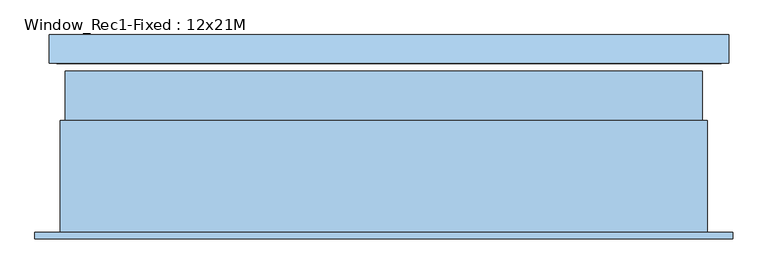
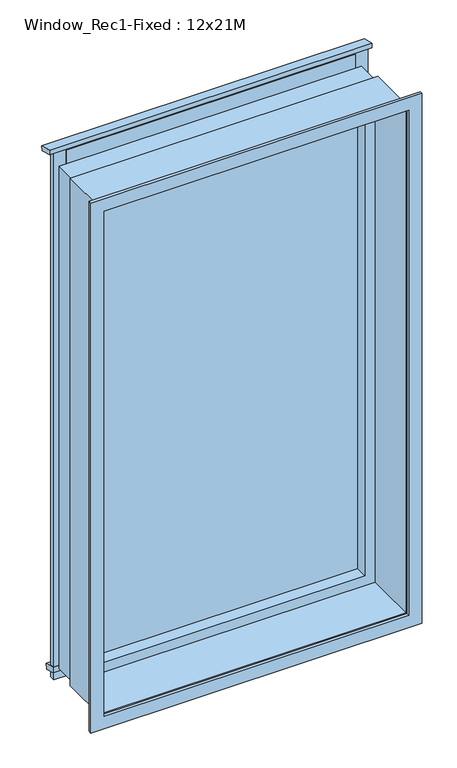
"""IFC4 building model written with IfcOpenShell, lengths in millimetres: window geometry, Window_Rec1-Fixed : 12x21M."""

import ifcopenshell
import ifcopenshell.guid

model = None  # the IFC model being written
_history = None  # IfcOwnerHistory: only IFC2X3 demands one
_inside = {}  # id of a spatial element -> (the spatial element, [elements in it])
_under = {}  # id of a project, library or spatial element -> (it, [spatial elements below it])
_declared = {}  # id of a project -> (the project, [libraries it declares])
_typed = {}  # id of a type object -> (the type object, [elements of that type])
_made_of = {}  # id of a material, layer set ... -> (it, [elements and type objects made of it])


def new_model(schema):
    """Start an empty IFC model of exactly this schema.

    Asked for "IFC4X3", IfcOpenShell would pick the latest addendum, in which some entities
    have other attributes; the version numbers below select the first issue.
    IFC2X3 requires an IfcOwnerHistory on every rooted entity: one is made here for all.
    """
    global model, _history
    if schema == "IFC4X3":
        model = ifcopenshell.file(schema_version=(4, 3, 0, 0))
    else:
        model = ifcopenshell.file(schema=schema)
    _inside.clear()
    _under.clear()
    _declared.clear()
    _typed.clear()
    _made_of.clear()
    _history = None
    if model.schema == "IFC2X3":
        org = make("IfcOrganization", Name="unknown")
        user = make(
            "IfcPersonAndOrganization",
            ThePerson=make("IfcPerson", FamilyName="unknown"),
            TheOrganization=org,
        )
        app = make(
            "IfcApplication",
            ApplicationDeveloper=org,
            Version="unknown",
            ApplicationFullName="unknown",
            ApplicationIdentifier="unknown",
        )
        _history = make(
            "IfcOwnerHistory",
            OwningUser=user,
            OwningApplication=app,
            ChangeAction="ADDED",
            CreationDate=0,
        )
    return model


def make(cls, **values):
    """One entity of the class cls with the attributes given. An attribute that is None is left unset."""
    return model.create_entity(
        cls, **{name: value for name, value in values.items() if value is not None}
    )


def rooted(cls, **values):
    """An entity with a GlobalId (a new one), such as an element, a storey or a relation."""
    return make(cls, GlobalId=ifcopenshell.guid.new(), OwnerHistory=_history, **values)


def si_unit(unit_type, name, prefix=None):
    """IfcSIUnit, for example si_unit("LENGTHUNIT", "METRE", prefix="MILLI")."""
    return make("IfcSIUnit", UnitType=unit_type, Prefix=prefix, Name=name)


def assignment(units):
    """IfcUnitAssignment: the units of a project."""
    return None if units is None else make("IfcUnitAssignment", Units=units)


def point(xyz):
    """IfcCartesianPoint."""
    return None if xyz is None else make("IfcCartesianPoint", Coordinates=xyz)


def direction(xyz):
    """IfcDirection."""
    return None if xyz is None else make("IfcDirection", DirectionRatios=xyz)


def frame(location, z_axis=None, x_axis=None):
    """IfcAxis2Placement3D, a coordinate frame: its origin and axes. An axis left out is left unset."""
    return make(
        "IfcAxis2Placement3D",
        Location=point(location),
        Axis=direction(z_axis),
        RefDirection=direction(x_axis),
    )


def origin():
    """The frame at (0, 0, 0) with its axes left unset."""
    return frame((0.0, 0.0, 0.0))


def place(relative_to, where):
    """IfcLocalPlacement: puts the frame where relative to a parent placement (None: the world)."""
    return make(
        "IfcLocalPlacement", PlacementRelTo=relative_to, RelativePlacement=where
    )


def context(
    kind, dimensions, precision=None, world=None, true_north=None, identifier=None
):
    """IfcGeometricRepresentationContext, for example the 3D "Model" context."""
    return make(
        "IfcGeometricRepresentationContext",
        ContextIdentifier=identifier,
        ContextType=kind,
        CoordinateSpaceDimension=dimensions,
        Precision=precision,
        WorldCoordinateSystem=world,
        TrueNorth=true_north,
    )


def project(units=None, contexts=None):
    """IfcProject with its units and contexts."""
    return rooted(
        "IfcProject",
        Name="project",
        RepresentationContexts=contexts,
        UnitsInContext=assignment(units),
    )


def spatial(cls, under=None, at=None, **own):
    """A site, building, storey or space (cls), placed at a placement, below another one or the project."""
    s = rooted(cls, ObjectPlacement=at, **own)
    if under is not None:
        _under.setdefault(under.id(), (under, []))[1].append(s)
    return s


def polyline(points):
    """IfcPolyline through the points."""
    return make("IfcPolyline", Points=[point(p) for p in points])


def outline(outer, holes=None, kind="AREA"):
    """IfcArbitraryClosedProfileDef: a profile drawn as a closed curve; with holes, ...WithVoids."""
    if holes is None:
        return make("IfcArbitraryClosedProfileDef", ProfileType=kind, OuterCurve=outer)
    return make(
        "IfcArbitraryProfileDefWithVoids",
        ProfileType=kind,
        OuterCurve=outer,
        InnerCurves=holes,
    )


def extrude(swept, where, along, depth):
    """IfcExtrudedAreaSolid: the profile swept, set in the frame where, extruded along a direction by depth."""
    return make(
        "IfcExtrudedAreaSolid",
        SweptArea=swept,
        Position=where,
        ExtrudedDirection=direction(along),
        Depth=depth,
    )


def shape(context_of_items, identifier, shape_type, items):
    """IfcShapeRepresentation: the items that make up one representation, for example the "Body"."""
    return make(
        "IfcShapeRepresentation",
        ContextOfItems=context_of_items,
        RepresentationIdentifier=identifier,
        RepresentationType=shape_type,
        Items=items,
    )


def source(mapping_origin, context_of_items, identifier, shape_type, items):
    """IfcRepresentationMap: a shape defined once, which mapped items show again and again."""
    return make(
        "IfcRepresentationMap",
        MappingOrigin=mapping_origin,
        MappedRepresentation=shape(context_of_items, identifier, shape_type, items),
    )


def transform(
    local_origin,
    x_axis=None,
    y_axis=None,
    z_axis=None,
    scale=None,
    scale2=None,
    scale3=None,
    uniform=True,
):
    """IfcCartesianTransformationOperator3D, or its non-uniform kind. x_axis, y_axis, z_axis: its Axis1, 2, 3."""
    if uniform:
        return make(
            "IfcCartesianTransformationOperator3D",
            Axis1=direction(x_axis),
            Axis2=direction(y_axis),
            LocalOrigin=point(local_origin),
            Scale=scale,
            Axis3=direction(z_axis),
        )
    return make(
        "IfcCartesianTransformationOperator3DnonUniform",
        Axis1=direction(x_axis),
        Axis2=direction(y_axis),
        LocalOrigin=point(local_origin),
        Scale=scale,
        Axis3=direction(z_axis),
        Scale2=scale2,
        Scale3=scale3,
    )


def mapped(mapping_source, mapping_target):
    """IfcMappedItem: shows the shape of a source again, moved by a transform."""
    return make(
        "IfcMappedItem", MappingSource=mapping_source, MappingTarget=mapping_target
    )


def made_of(thing, what):
    """Note that an element or type object is made of a material, layer set ...; save() writes the relation."""
    if what is not None:
        _made_of.setdefault(what.id(), (what, []))[1].append(thing)
    return thing


def element(
    cls,
    number,
    at=None,
    inside=None,
    cuts=None,
    type_object=None,
    material=None,
    context=None,
    identifier="Body",
    shape_type=None,
    held_by="IfcProductDefinitionShape",
    body=None,
    shapes=None,
    **own,
):
    """One element of the class cls, such as IfcWall. Its Tag is "e" and its number.

    at: its placement. inside: the storey or other place that contains it. cuts: it is an
    opening in that element (IfcRelVoidsElement). A single representation is given by context,
    identifier, shape_type and body (its items); several are given by shapes. held_by: the class
    of the entity that holds the representations. save() writes the other relations.
    """
    e = rooted(cls, Tag="e%d" % number, ObjectPlacement=at, **own)
    if body is not None:
        shapes = [shape(context, identifier, shape_type, body)]
    if shapes is not None:
        e.Representation = make(held_by, Representations=shapes)
    if inside is not None:
        _inside.setdefault(inside.id(), (inside, []))[1].append(e)
    if cuts is not None:
        rooted(
            "IfcRelVoidsElement", RelatingBuildingElement=cuts, RelatedOpeningElement=e
        )
    if type_object is not None:
        _typed.setdefault(type_object.id(), (type_object, []))[1].append(e)
    return made_of(e, material)


def aggregate(whole, parts):
    """IfcRelAggregates: a whole, such as a stair, and the parts it consists of."""
    return rooted("IfcRelAggregates", RelatingObject=whole, RelatedObjects=parts)


def save(model, path):
    """Write the relations noted so far, then the file.

    IfcRelAggregates (storeys below a building ...), IfcRelContainedInSpatialStructure (elements
    in a storey), IfcRelDefinesByType, IfcRelAssociatesMaterial and IfcRelDeclares: one each for
    every whole, place, type object, material and project.
    """
    for whole, parts in _under.values():
        aggregate(whole, parts)
    for where, things in _inside.values():
        rooted(
            "IfcRelContainedInSpatialStructure",
            RelatedElements=things,
            RelatingStructure=where,
        )
    for kind, things in _typed.values():
        rooted("IfcRelDefinesByType", RelatedObjects=things, RelatingType=kind)
    for what, things in _made_of.values():
        rooted("IfcRelAssociatesMaterial", RelatedObjects=things, RelatingMaterial=what)
    for by, libraries in _declared.values():
        rooted("IfcRelDeclares", RelatingContext=by, RelatedDefinitions=libraries)
    model.write(path)


def window_rec1_fixed_12x21m_bde98514(model_context):
    return source(origin(), model_context, "Body", "SweptSolid", [
        extrude(outline(polyline([(220.0508419, 3194.3065207), (215.1332801, 3175.95393), (166.8369888, 3188.8948822), (166.8369888, 3208.5651297), (220.0508419, 3194.3065207)])), frame((-530.0, 0.0, 0.0), z_axis=(1.0, 0.0, 0.0), x_axis=(0.0, 1.0, 0.0)), (0.0, 0.0, 1.0), 1270.0),
        extrude(outline(polyline([(215.1332801, 1040.6791642), (209.4392611, 1019.4287961), (166.8369888, 1030.8440405), (166.8369888, 1053.6201165), (215.1332801, 1040.6791642)])), frame((-516.0, 0.0, 0.0), z_axis=(1.0, 0.0, 0.0), x_axis=(0.0, 1.0, 0.0)), (0.0, 0.0, 1.0), 1242.0),
        extrude(outline(polyline([(-465.0, 166.8369888), (-465.0, 188.8369888), (675.0, 188.8369888), (675.0, 166.8369888), (-465.0, 166.8369888)])), frame((0.0, 0.0, 1005.0051732), z_axis=(0.0, 0.0, 1.0), x_axis=(1.0, 0.0, 0.0)), (0.0, 0.0, 1.0), 20.0),
        extrude(outline(polyline([(-465.0, 166.8369888), (-465.0, 188.8369888), (675.0, 188.8369888), (675.0, 166.8369888), (-465.0, 166.8369888)])), frame((0.0, 0.0, 3125.0), z_axis=(0.0, 0.0, 1.0), x_axis=(1.0, 0.0, 0.0)), (0.0, 0.0, 1.0), 60.0),
        extrude(outline(polyline([(723.0, 166.8369888), (675.0, 166.8369888), (675.0, 188.8369888), (723.0, 188.8369888), (723.0, 166.8369888)])), frame((0.0, 0.0, 1000.0), z_axis=(0.0, 0.0, 1.0), x_axis=(1.0, 0.0, 0.0)), (0.0, 0.0, 1.0), 2189.0),
        extrude(outline(polyline([(-465.0, 166.8369888), (-513.0, 166.8369888), (-513.0, 188.8369888), (-465.0, 188.8369888), (-465.0, 166.8369888)])), frame((0.0, 0.0, 1000.0), z_axis=(0.0, 0.0, 1.0), x_axis=(1.0, 0.0, 0.0)), (0.0, 0.0, 1.0), 2189.1537013),
        extrude(outline(polyline([(3140.0, 690.0), (3140.0, -500.0), (1050.0, -500.0), (1050.0, 690.0), (3140.0, 690.0)]), holes=[polyline([(1090.0, 650.0), (1090.0, -460.0), (3100.0, -460.0), (3100.0, 650.0), (1090.0, 650.0)])]), frame((0.0, 59.8369888, 0.0), z_axis=(0.0, 1.0, 0.0), x_axis=(0.0, 0.0, 1.0)), (0.0, 0.0, 1.0), 92.0),
        extrude(outline(polyline([(650.0, 109.3369888), (-460.0, 109.3369888), (-460.0, 134.3369888), (650.0, 134.3369888), (650.0, 109.3369888)])), frame((0.0, 0.0, 1090.0), z_axis=(0.0, 0.0, 1.0), x_axis=(1.0, 0.0, 0.0)), (0.0, 0.0, 1.0), 2010.0),
        extrude(outline(polyline([(3150.0, 700.0), (3150.0, -510.0), (1040.0, -510.0), (1040.0, 700.0), (3150.0, 700.0)]), holes=[polyline([(1050.0, -500.0), (3140.0, -500.0), (3140.0, 690.0), (1050.0, 690.0), (1050.0, -500.0)])]), frame((0.0, -149.1630112, 0.0), z_axis=(0.0, 1.0, 0.0), x_axis=(0.0, 0.0, 1.0)), (0.0, 0.0, 1.0), 209.0),
        extrude(outline(polyline([(3197.0, 747.0), (3197.0, -557.0), (993.0, -557.0), (993.0, 747.0), (3197.0, 747.0)]), holes=[polyline([(1045.0, 695.0), (1045.0, -505.0), (3145.0, -505.0), (3145.0, 695.0), (1045.0, 695.0)])]), frame((0.0, -161.1630112, 0.0), z_axis=(0.0, 1.0, 0.0), x_axis=(0.0, 0.0, 1.0)), (0.0, 0.0, 1.0), 12.0),
    ])


if __name__ == "__main__":
    model = new_model("IFC4")
    model_context = context("Model", 3, world=origin())
    ifc_project = project(units=[si_unit("LENGTHUNIT", "METRE", prefix="MILLI")], contexts=[model_context])
    site = spatial("IfcSite", under=ifc_project)
    building = spatial("IfcBuilding", under=site)
    placement = place(None, origin())
    window_rec1_fixed_12x21m_shape = window_rec1_fixed_12x21m_bde98514(model_context)
    element("IfcWindow", 1, ObjectType="Window_Rec1-Fixed : 12x21M", at=placement, inside=building, context=model_context, shape_type="MappedRepresentation", body=[
        mapped(window_rec1_fixed_12x21m_shape, transform((0.0, 0.0, 0.0), x_axis=(1.0, 0.0, 0.0), y_axis=(0.0, 1.0, 0.0), z_axis=(0.0, 0.0, 1.0))),
    ])
    save(model, "model.ifc")
